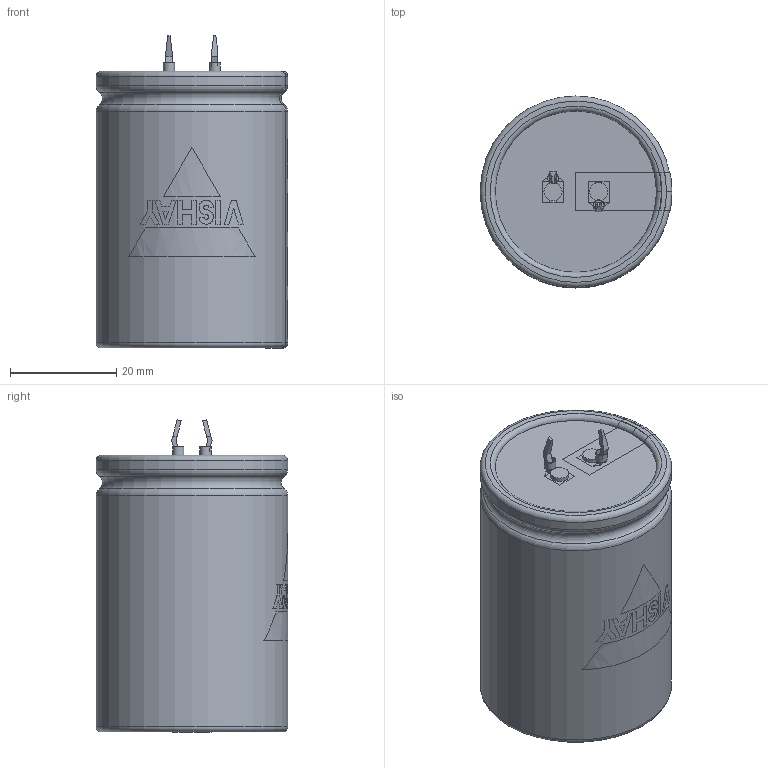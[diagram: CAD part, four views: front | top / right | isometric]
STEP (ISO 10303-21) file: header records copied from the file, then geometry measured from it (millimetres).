
FILE_DESCRIPTION(('FreeCAD Model'),'2;1');
FILE_NAME( 'C:/Users/Gebruiker/Documents/FreeCAD/SnapIn_35x50_2pin_5.8.step', '2020-11-12T20:43:02',('Author'),(''), 'Open CASCADE STEP processor 6.8','FreeCAD','Unknown');
FILE_SCHEMA(('AUTOMOTIVE_DESIGN_CC2 { 1 2 10303 214 -1 1 5 4 }'));
Length unit declared in the file: millimetre
Products named in the file (9): ASSEMBLY; TerminalMin; TerminalPlus; PCBHoles; Disc; BottomInsulation; Can3D; InkMinusBar; InkLogo
Assembly tree (8 placements, depth 2):
  ASSEMBLY
    TerminalMin
    TerminalPlus
    PCBHoles
    Disc
    BottomInsulation
    Can3D
    InkMinusBar
    InkLogo
Bounding box: 36.05 x 36.05 x 58.75 mm (x, y, z)
Volume: 60128.4 mm3; surface area: 19049.2 mm2
Topology: 16 solids, 16 shells, 192 faces, 472 edges, 309 vertices
Faces by surface type: plane 145, cylinder 29, torus 18
Full cylindrical faces by diameter (mm): 2 x2, 2.1 x2, 3.4 x2, 28.8 x2, 30.3 x1, 36 x2
Entity records: 19729 total; most frequent: CARTESIAN_POINT 9120, DIRECTION 1667, ORIENTED_EDGE 944, PCURVE 944, DEFINITIONAL_REPRESENTATION 944, LINE 928, VECTOR 928, EDGE_CURVE 472
